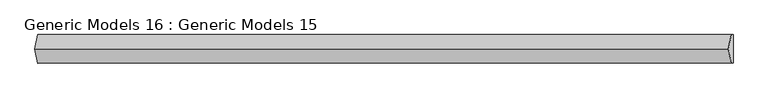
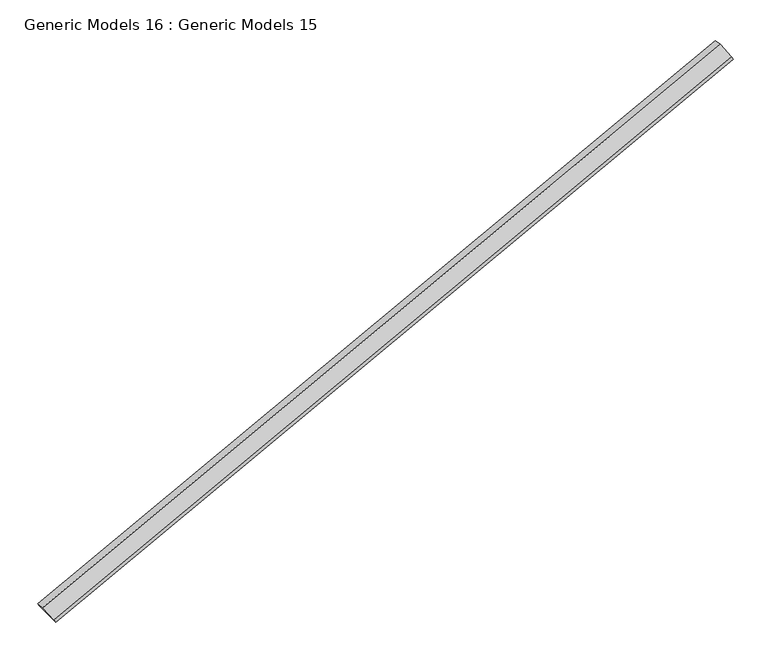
"""IFC4 building model written with IfcOpenShell, lengths in millimetres: proxy geometry, Generic Models 16 : Generic Models 15."""

from ifc_helpers import new_model, si_unit, frame, origin, place, context, project, spatial, polyline, outline, extrude, source, transform, mapped, element, save


def generic_models_16_generic_models_15_e595c95c(model_context):
    return source(origin(), model_context, "Body", "SweptSolid", [
        extrude(outline(polyline([(-120.0, 0.0), (20.0, 0.0), (20.0, -20.0), (-50.0, -50.0), (-120.0, -20.0), (-120.0, 0.0)])), frame((13343.1337784, 5275.457015, 6400.0), z_axis=(0.883787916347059, 0.0, 0.4678877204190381), x_axis=(0.0, -1.0, 0.0)), (0.0, 0.0, 1.0), 3847.0768123),
    ])


if __name__ == "__main__":
    model = new_model("IFC4")
    model_context = context("Model", 3, world=origin())
    ifc_project = project(units=[si_unit("LENGTHUNIT", "METRE", prefix="MILLI")], contexts=[model_context])
    site = spatial("IfcSite", under=ifc_project)
    building = spatial("IfcBuilding", under=site)
    placement = place(None, origin())
    generic_models_16_generic_models_15_shape = generic_models_16_generic_models_15_e595c95c(model_context)
    element("IfcBuildingElementProxy", 1, Name="Generic Models 16 : Generic Models 15", ObjectType="Generic Models 16 : Generic Models 15", at=placement, inside=building, context=model_context, shape_type="MappedRepresentation", body=[
        mapped(generic_models_16_generic_models_15_shape, transform((0.0, 0.0, 0.0), x_axis=(1.0, 0.0, 0.0), y_axis=(0.0, 1.0, 0.0), z_axis=(0.0, 0.0, 1.0))),
    ])
    save(model, "model.ifc")
